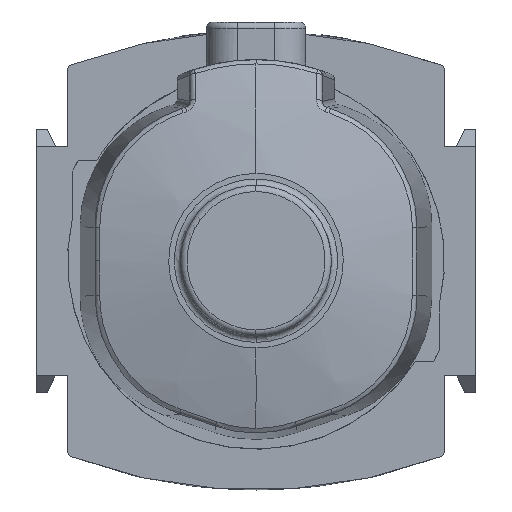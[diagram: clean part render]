
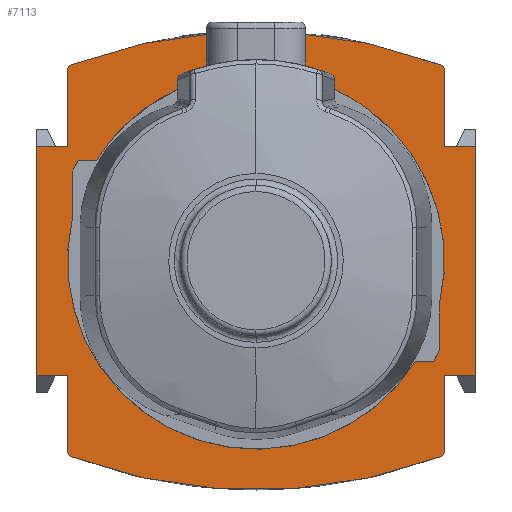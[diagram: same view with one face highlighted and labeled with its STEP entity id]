
A CAD part, front view. The second image highlights one B-rep face of the part: STEP entity #7113.
In plain terms, the highlighted planar face has unit normal (0, -1, 0).
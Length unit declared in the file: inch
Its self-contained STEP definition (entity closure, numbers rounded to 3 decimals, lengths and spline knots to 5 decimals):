
#6255=FACE_BOUND('',#8882,.T.);
#6337=PLANE('',#21539);
#6934=CIRCLE('',#21528,3.30709);
#6935=CIRCLE('',#21529,0.03937);
#6936=CIRCLE('',#21530,0.03937);
#6937=CIRCLE('',#21531,3.30709);
#6938=CIRCLE('',#21532,0.03937);
#6939=CIRCLE('',#21533,0.03937);
#6940=CIRCLE('',#21534,1.1811);
#6941=CIRCLE('',#21535,1.1811);
#6942=CIRCLE('',#21536,1.27953);
#6943=CIRCLE('',#21537,1.1811);
#6944=CIRCLE('',#21538,1.27953);
#7113=ADVANCED_FACE('',(#8039,#6255),#6337,.F.);
#8039=FACE_OUTER_BOUND('',#8881,.T.);
#8881=EDGE_LOOP('',(#12944,#12945,#12946,#12947,#12948,#12949,#12950,#12951,
#12952,#12953,#12954,#12955,#12956,#12957,#12958,#12959));
#8882=EDGE_LOOP('',(#12960,#12961,#12962,#12963,#12964,#12965,#12966,#12967,
#12968));
#9807=LINE('',#26487,#11319);
#9808=LINE('',#26489,#11320);
#9809=LINE('',#26491,#11321);
#9810=LINE('',#26493,#11322);
#9811=LINE('',#26495,#11323);
#9812=LINE('',#26503,#11324);
#9813=LINE('',#26505,#11325);
#9814=LINE('',#26507,#11326);
#9815=LINE('',#26509,#11327);
#9816=LINE('',#26511,#11328);
#9817=LINE('',#26514,#11329);
#9818=LINE('',#26521,#11330);
#9819=LINE('',#26525,#11331);
#9820=LINE('',#26529,#11332);
#11319=VECTOR('',#22640,1.);
#11320=VECTOR('',#22641,1.);
#11321=VECTOR('',#22642,1.);
#11322=VECTOR('',#22643,1.);
#11323=VECTOR('',#22644,1.);
#11324=VECTOR('',#22651,1.);
#11325=VECTOR('',#22652,1.);
#11326=VECTOR('',#22653,1.);
#11327=VECTOR('',#22654,1.);
#11328=VECTOR('',#22655,1.);
#11329=VECTOR('',#22658,1.);
#11330=VECTOR('',#22663,1.);
#11331=VECTOR('',#22666,1.);
#11332=VECTOR('',#22669,1.);
#12944=ORIENTED_EDGE('',*,*,#18882,.T.);
#12945=ORIENTED_EDGE('',*,*,#18883,.T.);
#12946=ORIENTED_EDGE('',*,*,#18884,.F.);
#12947=ORIENTED_EDGE('',*,*,#18885,.T.);
#12948=ORIENTED_EDGE('',*,*,#18886,.F.);
#12949=ORIENTED_EDGE('',*,*,#18887,.F.);
#12950=ORIENTED_EDGE('',*,*,#18888,.F.);
#12951=ORIENTED_EDGE('',*,*,#18889,.T.);
#12952=ORIENTED_EDGE('',*,*,#18890,.T.);
#12953=ORIENTED_EDGE('',*,*,#18891,.T.);
#12954=ORIENTED_EDGE('',*,*,#18892,.F.);
#12955=ORIENTED_EDGE('',*,*,#18893,.T.);
#12956=ORIENTED_EDGE('',*,*,#18894,.F.);
#12957=ORIENTED_EDGE('',*,*,#18895,.F.);
#12958=ORIENTED_EDGE('',*,*,#18896,.F.);
#12959=ORIENTED_EDGE('',*,*,#18897,.T.);
#12960=ORIENTED_EDGE('',*,*,#18898,.T.);
#12961=ORIENTED_EDGE('',*,*,#18899,.T.);
#12962=ORIENTED_EDGE('',*,*,#18900,.T.);
#12963=ORIENTED_EDGE('',*,*,#18901,.T.);
#12964=ORIENTED_EDGE('',*,*,#18902,.T.);
#12965=ORIENTED_EDGE('',*,*,#18903,.T.);
#12966=ORIENTED_EDGE('',*,*,#18904,.T.);
#12967=ORIENTED_EDGE('',*,*,#18905,.T.);
#12968=ORIENTED_EDGE('',*,*,#18906,.T.);
#17404=VERTEX_POINT('',#26483);
#17405=VERTEX_POINT('',#26484);
#17406=VERTEX_POINT('',#26486);
#17407=VERTEX_POINT('',#26488);
#17408=VERTEX_POINT('',#26490);
#17409=VERTEX_POINT('',#26492);
#17410=VERTEX_POINT('',#26494);
#17411=VERTEX_POINT('',#26496);
#17412=VERTEX_POINT('',#26498);
#17413=VERTEX_POINT('',#26500);
#17414=VERTEX_POINT('',#26502);
#17415=VERTEX_POINT('',#26504);
#17416=VERTEX_POINT('',#26506);
#17417=VERTEX_POINT('',#26508);
#17418=VERTEX_POINT('',#26510);
#17419=VERTEX_POINT('',#26512);
#17420=VERTEX_POINT('',#26515);
#17421=VERTEX_POINT('',#26516);
#17422=VERTEX_POINT('',#26518);
#17423=VERTEX_POINT('',#26520);
#17424=VERTEX_POINT('',#26522);
#17425=VERTEX_POINT('',#26524);
#17426=VERTEX_POINT('',#26526);
#17427=VERTEX_POINT('',#26528);
#17428=VERTEX_POINT('',#26530);
#18882=EDGE_CURVE('',#17404,#17405,#6934,.T.);
#18883=EDGE_CURVE('',#17405,#17406,#6935,.T.);
#18884=EDGE_CURVE('',#17407,#17406,#9807,.T.);
#18885=EDGE_CURVE('',#17407,#17408,#9808,.T.);
#18886=EDGE_CURVE('',#17409,#17408,#9809,.T.);
#18887=EDGE_CURVE('',#17410,#17409,#9810,.T.);
#18888=EDGE_CURVE('',#17411,#17410,#9811,.T.);
#18889=EDGE_CURVE('',#17411,#17412,#6936,.T.);
#18890=EDGE_CURVE('',#17412,#17413,#6937,.T.);
#18891=EDGE_CURVE('',#17413,#17414,#6938,.T.);
#18892=EDGE_CURVE('',#17415,#17414,#9812,.T.);
#18893=EDGE_CURVE('',#17415,#17416,#9813,.T.);
#18894=EDGE_CURVE('',#17417,#17416,#9814,.T.);
#18895=EDGE_CURVE('',#17418,#17417,#9815,.T.);
#18896=EDGE_CURVE('',#17419,#17418,#9816,.T.);
#18897=EDGE_CURVE('',#17419,#17404,#6939,.T.);
#18898=EDGE_CURVE('',#17420,#17421,#9817,.T.);
#18899=EDGE_CURVE('',#17421,#17422,#6940,.T.);
#18900=EDGE_CURVE('',#17422,#17423,#6941,.T.);
#18901=EDGE_CURVE('',#17423,#17424,#9818,.T.);
#18902=EDGE_CURVE('',#17424,#17425,#6942,.T.);
#18903=EDGE_CURVE('',#17425,#17426,#9819,.T.);
#18904=EDGE_CURVE('',#17426,#17427,#6943,.T.);
#18905=EDGE_CURVE('',#17427,#17428,#9820,.T.);
#18906=EDGE_CURVE('',#17428,#17420,#6944,.T.);
#21528=AXIS2_PLACEMENT_3D('',#26482,#22636,#22637);
#21529=AXIS2_PLACEMENT_3D('',#26485,#22638,#22639);
#21530=AXIS2_PLACEMENT_3D('',#26497,#22645,#22646);
#21531=AXIS2_PLACEMENT_3D('',#26499,#22647,#22648);
#21532=AXIS2_PLACEMENT_3D('',#26501,#22649,#22650);
#21533=AXIS2_PLACEMENT_3D('',#26513,#22656,#22657);
#21534=AXIS2_PLACEMENT_3D('',#26517,#22659,#22660);
#21535=AXIS2_PLACEMENT_3D('',#26519,#22661,#22662);
#21536=AXIS2_PLACEMENT_3D('',#26523,#22664,#22665);
#21537=AXIS2_PLACEMENT_3D('',#26527,#22667,#22668);
#21538=AXIS2_PLACEMENT_3D('',#26531,#22670,#22671);
#21539=AXIS2_PLACEMENT_3D('',#26532,#22672,#22673);
#22636=DIRECTION('',(0.,-1.,0.));
#22637=DIRECTION('',(0.,0.,1.));
#22638=DIRECTION('',(0.,-1.,0.));
#22639=DIRECTION('',(0.,0.,1.));
#22640=DIRECTION('',(0.,0.,1.));
#22641=DIRECTION('',(-1.,0.,0.));
#22642=DIRECTION('',(0.,0.,1.));
#22643=DIRECTION('',(-1.,0.,0.));
#22644=DIRECTION('',(0.,0.,1.));
#22645=DIRECTION('',(0.,-1.,0.));
#22646=DIRECTION('',(0.,0.,1.));
#22647=DIRECTION('',(0.,-1.,0.));
#22648=DIRECTION('',(0.,0.,1.));
#22649=DIRECTION('',(0.,-1.,0.));
#22650=DIRECTION('',(0.,0.,1.));
#22651=DIRECTION('',(0.,0.,-1.));
#22652=DIRECTION('',(1.,0.,0.));
#22653=DIRECTION('',(0.,0.,-1.));
#22654=DIRECTION('',(1.,0.,0.));
#22655=DIRECTION('',(0.,0.,-1.));
#22656=DIRECTION('',(0.,-1.,0.));
#22657=DIRECTION('',(0.,0.,1.));
#22658=DIRECTION('',(1.,0.,0.));
#22659=DIRECTION('',(0.,1.,0.));
#22660=DIRECTION('',(0.,0.,1.));
#22661=DIRECTION('',(0.,1.,0.));
#22662=DIRECTION('',(0.,0.,1.));
#22663=DIRECTION('',(0.,0.,-1.));
#22664=DIRECTION('',(0.,1.,0.));
#22665=DIRECTION('',(0.,0.,1.));
#22666=DIRECTION('',(-1.,0.,0.));
#22667=DIRECTION('',(0.,1.,0.));
#22668=DIRECTION('',(0.,0.,1.));
#22669=DIRECTION('',(0.,0.,1.));
#22670=DIRECTION('',(0.,1.,0.));
#22671=DIRECTION('',(0.,0.,1.));
#22672=DIRECTION('',(0.,1.,0.));
#22673=DIRECTION('',(0.,0.,1.));
#26482=CARTESIAN_POINT('',(0.,0.,-1.87008));
#26483=CARTESIAN_POINT('',(1.15549,0.,1.22858));
#26484=CARTESIAN_POINT('',(-1.15549,0.,1.22858));
#26485=CARTESIAN_POINT('',(-1.14173,0.,1.19169));
#26486=CARTESIAN_POINT('',(-1.1811,0.,1.19169));
#26487=CARTESIAN_POINT('',(-1.1811,0.,1.2189));
#26488=CARTESIAN_POINT('',(-1.1811,0.,0.7185));
#26489=CARTESIAN_POINT('',(-1.37795,0.,0.7185));
#26490=CARTESIAN_POINT('',(-1.37795,0.,0.7185));
#26491=CARTESIAN_POINT('',(-1.37795,0.,-1.43701));
#26492=CARTESIAN_POINT('',(-1.37795,0.,-0.7185));
#26493=CARTESIAN_POINT('',(-1.1811,0.,-0.7185));
#26494=CARTESIAN_POINT('',(-1.1811,0.,-0.7185));
#26495=CARTESIAN_POINT('',(-1.1811,0.,-1.2189));
#26496=CARTESIAN_POINT('',(-1.1811,0.,-1.19169));
#26497=CARTESIAN_POINT('',(-1.14173,0.,-1.19169));
#26498=CARTESIAN_POINT('',(-1.15549,0.,-1.22858));
#26499=CARTESIAN_POINT('',(0.,0.,1.87008));
#26500=CARTESIAN_POINT('',(1.15549,0.,-1.22858));
#26501=CARTESIAN_POINT('',(1.14173,0.,-1.19169));
#26502=CARTESIAN_POINT('',(1.1811,0.,-1.19169));
#26503=CARTESIAN_POINT('',(1.1811,0.,-1.2189));
#26504=CARTESIAN_POINT('',(1.1811,0.,-0.7185));
#26505=CARTESIAN_POINT('',(-1.37795,0.,-0.7185));
#26506=CARTESIAN_POINT('',(1.37795,0.,-0.7185));
#26507=CARTESIAN_POINT('',(1.37795,0.,-1.43701));
#26508=CARTESIAN_POINT('',(1.37795,0.,0.7185));
#26509=CARTESIAN_POINT('',(1.8199,0.,0.7185));
#26510=CARTESIAN_POINT('',(1.1811,0.,0.7185));
#26511=CARTESIAN_POINT('',(1.1811,0.,1.2189));
#26512=CARTESIAN_POINT('',(1.1811,0.,1.19169));
#26513=CARTESIAN_POINT('',(1.14173,0.,1.19169));
#26514=CARTESIAN_POINT('',(-0.9991,0.,0.62992));
#26515=CARTESIAN_POINT('',(-1.11373,0.,0.62992));
#26516=CARTESIAN_POINT('',(-0.9991,0.,0.62992));
#26517=CARTESIAN_POINT('',(0.,0.,0.));
#26518=CARTESIAN_POINT('',(0.,0.,1.1811));
#26519=CARTESIAN_POINT('',(0.,0.,0.));
#26520=CARTESIAN_POINT('',(1.14963,0.,-0.27084));
#26521=CARTESIAN_POINT('',(1.14963,0.,-0.56173));
#26522=CARTESIAN_POINT('',(1.14963,0.,-0.56173));
#26523=CARTESIAN_POINT('',(0.,0.,0.));
#26524=CARTESIAN_POINT('',(1.11373,0.,-0.62992));
#26525=CARTESIAN_POINT('',(0.9991,0.,-0.62992));
#26526=CARTESIAN_POINT('',(0.9991,0.,-0.62992));
#26527=CARTESIAN_POINT('',(0.,0.,0.));
#26528=CARTESIAN_POINT('',(-1.14963,0.,0.27084));
#26529=CARTESIAN_POINT('',(-1.14963,0.,0.56173));
#26530=CARTESIAN_POINT('',(-1.14963,0.,0.56173));
#26531=CARTESIAN_POINT('',(0.,0.,0.));
#26532=CARTESIAN_POINT('',(-1.37795,0.,1.43701));
